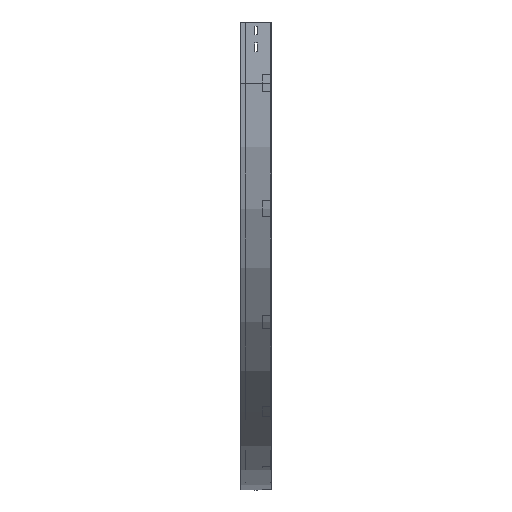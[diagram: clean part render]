
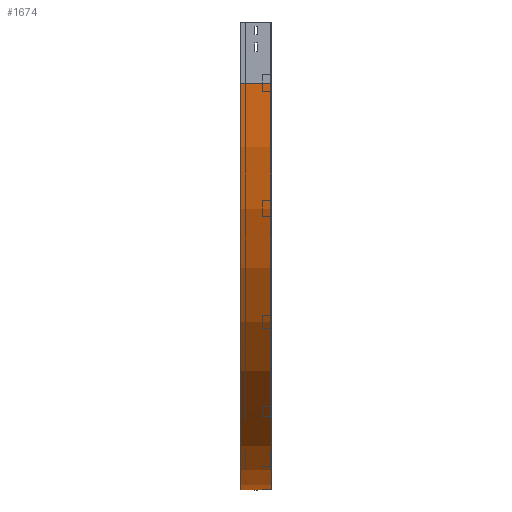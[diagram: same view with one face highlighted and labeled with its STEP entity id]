
A CAD part, left-side view. The second image highlights one B-rep face of the part: STEP entity #1674.
In plain terms, the highlighted cylindrical face has radius 1000 mm (diameter 2000 mm), a partial arc.
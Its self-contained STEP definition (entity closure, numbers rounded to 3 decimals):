
#117 = VERTEX_POINT ( 'NONE', #1094 ) ;
#181 = VERTEX_POINT ( 'NONE', #1727 ) ;
#310 = VERTEX_POINT ( 'NONE', #2948 ) ;
#316 = AXIS2_PLACEMENT_3D ( 'NONE', #3803, #1090, #1977 ) ;
#331 = CARTESIAN_POINT ( 'NONE',  ( 1000., 75., -150. ) ) ;
#443 = EDGE_LOOP ( 'NONE', ( #2786, #1769, #3315, #2448 ) ) ;
#450 = CIRCLE ( 'NONE', #316, 1000. ) ;
#552 = CARTESIAN_POINT ( 'NONE',  ( 1000., 0., -150. ) ) ;
#571 = DIRECTION ( 'NONE',  ( 0., -1., 0. ) ) ;
#694 = AXIS2_PLACEMENT_3D ( 'NONE', #552, #571, #1412 ) ;
#1027 = VERTEX_POINT ( 'NONE', #2120 ) ;
#1090 = DIRECTION ( 'NONE',  ( 0., -1., 0. ) ) ;
#1094 = CARTESIAN_POINT ( 'NONE',  ( 0., 0., -150. ) ) ;
#1299 = VECTOR ( 'NONE', #1883, 1000. ) ;
#1412 = DIRECTION ( 'NONE',  ( 0., 0., -1. ) ) ;
#1622 = EDGE_CURVE ( 'NONE', #181, #117, #2172, .T. ) ;
#1659 = FACE_OUTER_BOUND ( 'NONE', #443, .T. ) ;
#1674 = ADVANCED_FACE ( 'NONE', ( #1659 ), #2584, .T. ) ;
#1691 = CIRCLE ( 'NONE', #2843, 1000. ) ;
#1727 = CARTESIAN_POINT ( 'NONE',  ( 0., 75., -150. ) ) ;
#1769 = ORIENTED_EDGE ( 'NONE', *, *, #1622, .F. ) ;
#1777 = EDGE_CURVE ( 'NONE', #117, #310, #450, .T. ) ;
#1883 = DIRECTION ( 'NONE',  ( 0., -1., 0. ) ) ;
#1935 = VECTOR ( 'NONE', #2041, 1000. ) ;
#1977 = DIRECTION ( 'NONE',  ( -1., 0., 0. ) ) ;
#2041 = DIRECTION ( 'NONE',  ( 0., -1., 0. ) ) ;
#2120 = CARTESIAN_POINT ( 'NONE',  ( 1000., 75., -1150. ) ) ;
#2172 = LINE ( 'NONE', #3415, #1299 ) ;
#2250 = EDGE_CURVE ( 'NONE', #181, #1027, #1691, .T. ) ;
#2352 = DIRECTION ( 'NONE',  ( -1., 0., 0. ) ) ;
#2448 = ORIENTED_EDGE ( 'NONE', *, *, #2527, .T. ) ;
#2527 = EDGE_CURVE ( 'NONE', #1027, #310, #2950, .T. ) ;
#2584 = CYLINDRICAL_SURFACE ( 'NONE', #694, 1000. ) ;
#2662 = DIRECTION ( 'NONE',  ( 0., -1., 0. ) ) ;
#2786 = ORIENTED_EDGE ( 'NONE', *, *, #1777, .F. ) ;
#2843 = AXIS2_PLACEMENT_3D ( 'NONE', #331, #2662, #2352 ) ;
#2948 = CARTESIAN_POINT ( 'NONE',  ( 1000., 0., -1150. ) ) ;
#2950 = LINE ( 'NONE', #3825, #1935 ) ;
#3315 = ORIENTED_EDGE ( 'NONE', *, *, #2250, .T. ) ;
#3415 = CARTESIAN_POINT ( 'NONE',  ( 0., 0., -150. ) ) ;
#3803 = CARTESIAN_POINT ( 'NONE',  ( 1000., 0., -150. ) ) ;
#3825 = CARTESIAN_POINT ( 'NONE',  ( 1000., 0., -1150. ) ) ;
